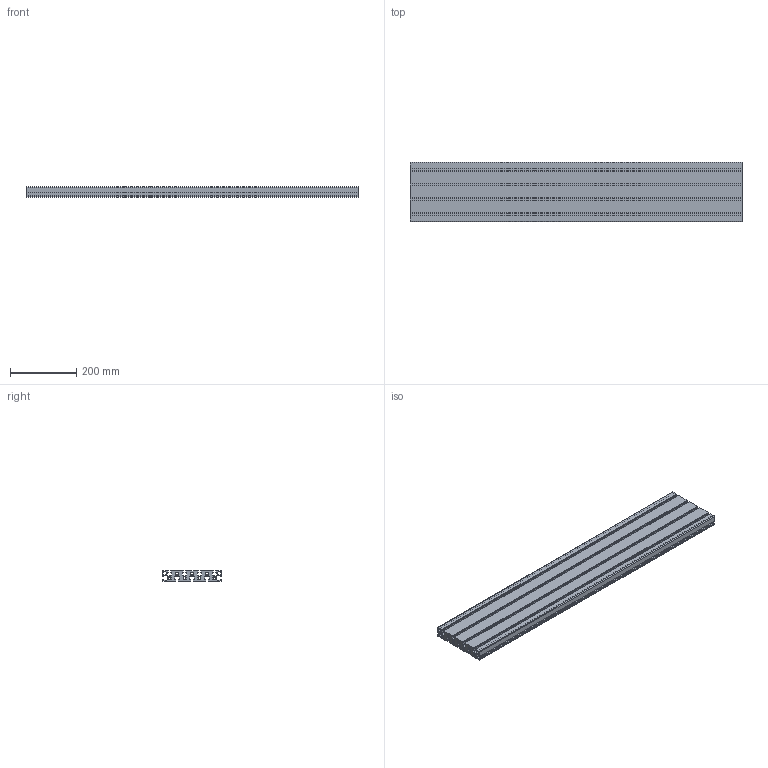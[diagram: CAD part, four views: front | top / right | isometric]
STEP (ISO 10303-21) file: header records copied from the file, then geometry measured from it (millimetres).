
FILE_DESCRIPTION (( 'STEP AP214' ), '1' );
FILE_NAME ('1.0209 32X180 musta 1000mm.STEP', '2026-03-17T13:06:34', ( '' ), ( '' ), 'SwSTEP 2.0', 'SolidWorks 2025', '' );
FILE_SCHEMA (( 'AUTOMOTIVE_DESIGN' ));
Length unit declared in the file: millimetre
Products named in the file (1): 1.0209 32X180 musta 1000mm
Bounding box: 1000 x 180 x 32 mm (x, y, z)
Volume: 3519436.7 mm3; surface area: 1103563.7 mm2
Topology: 1 solids, 1 shells, 418 faces, 1248 edges, 832 vertices
Faces by surface type: cylinder 238, plane 180
Entity records: 14287 total; most frequent: DIRECTION 2562, CARTESIAN_POINT 2499, ORIENTED_EDGE 2496, EDGE_CURVE 1248, AXIS2_PLACEMENT_3D 895, VERTEX_POINT 832, LINE 772, VECTOR 772
